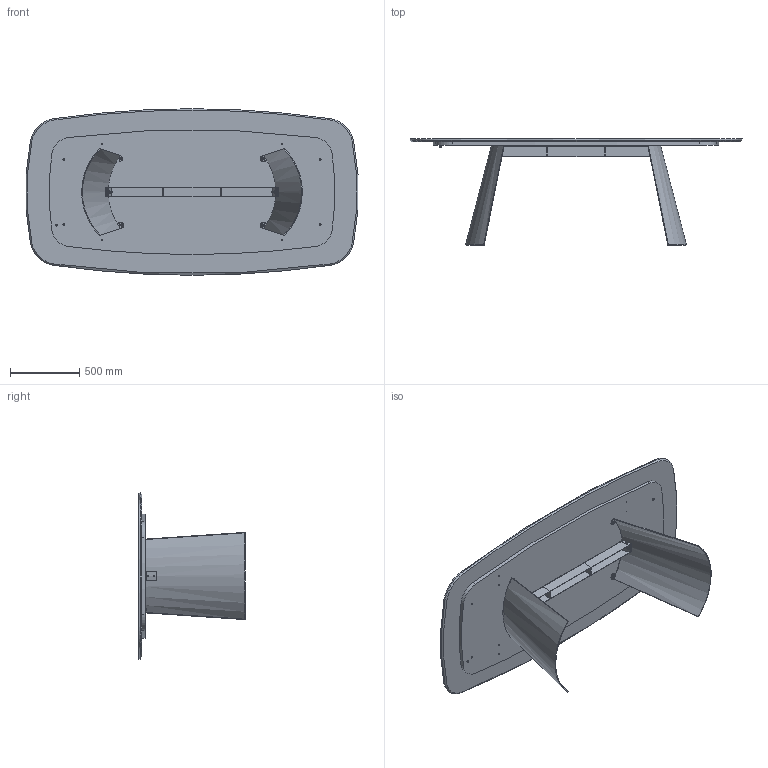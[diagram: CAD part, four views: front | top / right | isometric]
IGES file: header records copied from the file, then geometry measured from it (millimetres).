
Start section: SolidWorks IGES file using analytic representation for surfaces
Global section: file name: Y:\eforma\TECNICO\SOLIDWORKS\E-FORMA\1-TAVOLI\DORIAN\02 parts-rev 01\DN43M.IGS; native system: SolidWorks 2022; preprocessor: SolidWorks 2022; author: eforma.tech; date: 240807.170857; units: millimetre
Bounding box: 2391.9 x 765 x 1200 mm (x, y, z)
Volume: 101581302.5 mm3; surface area: 11530334.9 mm2
Topology: 38 solids, 38 shells, 639 faces, 1525 edges, 946 vertices
Faces by surface type: revolution 383, plane 238, bspline 18
